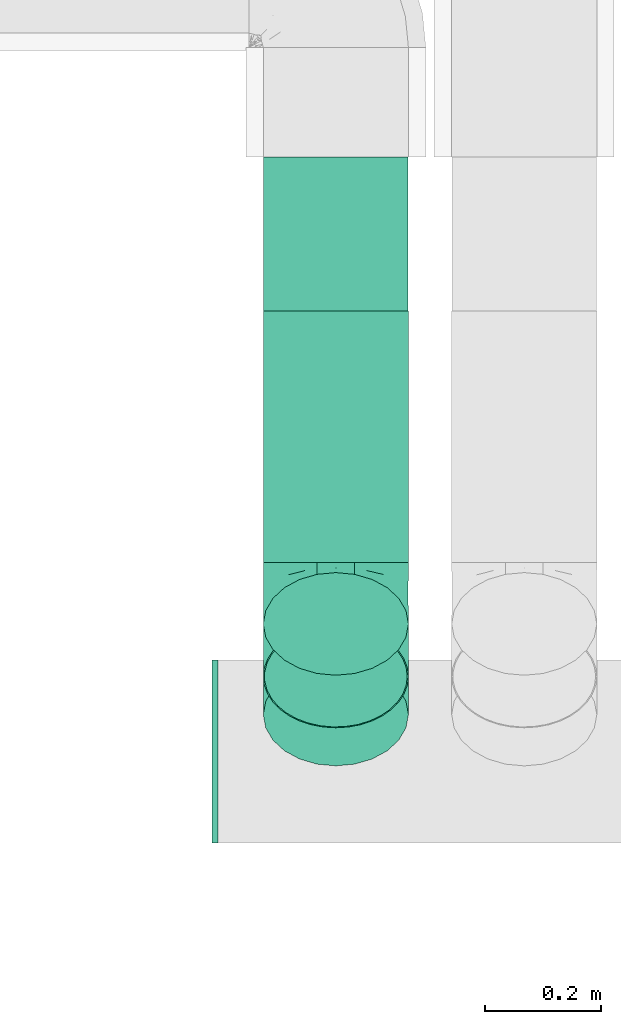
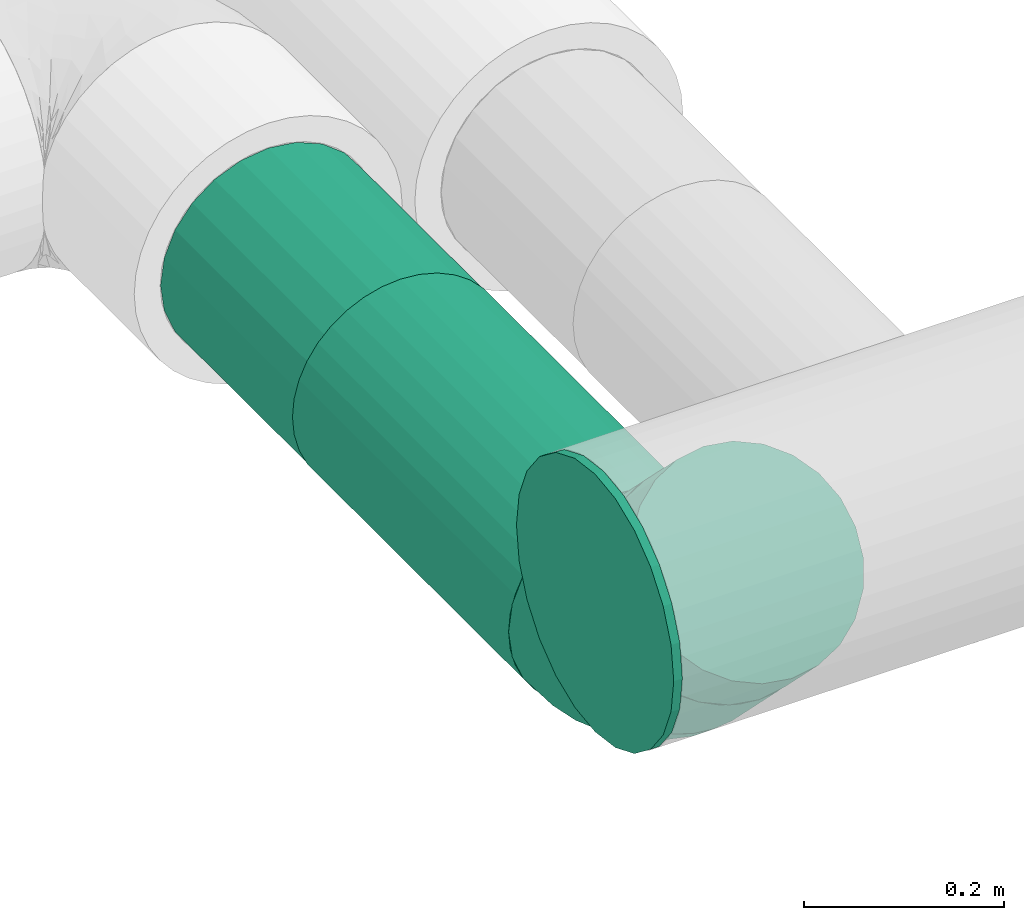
# One storey, part 10 of 36: 3 flow fittings, 2 flow segments, 1 flow controller.
"""IFC2X3 building model written with IfcOpenShell, lengths in millimetres."""

from ifc_helpers import new_model, entity, si_unit, converted_unit, derived_unit, direction, frame, origin_with_axes, origin_2d_with_axis, place, context, subcontext, project, spatial, hollow_circle, extrude, open_shell, surface_model, source, transform, mapped, type_object, element, save


model = new_model("IFC2X3")

# Units and contexts
model_context = context("Model", 3, precision=0.01, world=frame((0.0, 4.29681676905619e-09, 0.0)), true_north=direction((4.01073788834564e-13, 1.0)))
plan_context = context("Plan", 3, precision=0.01, world=frame((0.0, 4.29681676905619e-09, 0.0)), true_north=direction((4.01073788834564e-13, 1.0)))
body_context = subcontext(model_context, "Body", "Model", "MODEL_VIEW")
ifc_project = project(units=[converted_unit("PLANEANGLEUNIT", "DEGREE", entity("IfcPositiveLengthMeasure", 0.0174532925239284), si_unit("PLANEANGLEUNIT", "RADIAN"), dimensions=[0, 0, 0, 0, 0, 0, 0]), si_unit("AREAUNIT", "SQUARE_METRE"), si_unit("LENGTHUNIT", "METRE", prefix="MILLI"), si_unit("MASSUNIT", "GRAM", prefix="KILO"), si_unit("POWERUNIT", "WATT"), si_unit("PRESSUREUNIT", "PASCAL"), si_unit("FORCEUNIT", "NEWTON", prefix="KILO"), si_unit("ELECTRICCURRENTUNIT", "AMPERE"), si_unit("THERMODYNAMICTEMPERATUREUNIT", "DEGREE_CELSIUS"), si_unit("TIMEUNIT", "SECOND"), si_unit("VOLUMEUNIT", "CUBIC_METRE"), derived_unit("LINEARVELOCITYUNIT", [(si_unit("LENGTHUNIT", "METRE"), 1), (si_unit("TIMEUNIT", "SECOND"), -1)]), derived_unit("VOLUMETRICFLOWRATEUNIT", [(si_unit("VOLUMEUNIT", "CUBIC_METRE"), 1), (si_unit("TIMEUNIT", "SECOND"), -1)]), derived_unit("THERMALTRANSMITTANCEUNIT", [(si_unit("POWERUNIT", "WATT"), 1), (si_unit("THERMODYNAMICTEMPERATUREUNIT", "KELVIN"), -1), (si_unit("AREAUNIT", "SQUARE_METRE"), -1)])], contexts=[model_context, plan_context])

# Site, building, storey
site_placement = place(None, frame((0.0, -4.29681676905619e-09, 0.0), z_axis=(0.0, 0.0, 1.0), x_axis=(1.0, 0.0, 0.0)))
site = spatial("IfcSite", under=ifc_project, at=site_placement, CompositionType="ELEMENT")
building_placement = place(site_placement, frame((0.0, 4.29681676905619e-09, 0.0), z_axis=(0.0, 0.0, 1.0), x_axis=(1.0, 0.0, 0.0)))
building = spatial("IfcBuilding", under=site, at=building_placement, Name="mc-building", CompositionType="ELEMENT")
storey_placement = place(building_placement, frame((0.0, 0.0, 204000.0), z_axis=(0.0, 0.0, 1.0), x_axis=(1.0, 0.0, 0.0)))
storey = spatial("IfcBuildingStorey", under=building, at=storey_placement, Name="Nivå D", CompositionType="ELEMENT", Elevation=204000.0)

# Flow controller
damper_type = type_object("IfcDamperType", Name="IGNIS-C-EI60-250", PredefinedType="FIREDAMPER")
shared_shape_1 = source(origin_with_axes(), body_context, "Body", "SurfaceModel", [
    surface_model("IfcShellBasedSurfaceModel", [(132.5, 62.25, -107.82016), (132.5, 88.0348, -88.0348), (132.5, 62.15, -107.64695), (132.5, 32.17121, -120.06458), (132.5, 0.0, -124.3), (132.5, 32.22297, -120.25777), (132.5, 0.0, -124.5), (132.5, 87.89337, -87.89337), (132.5, 120.25777, -32.22297), (132.5, 124.3, 0.0), (132.5, 120.06458, -32.17121), (132.5, 124.5, 0.0), (132.5, 107.82016, -62.25), (132.5, 107.64695, -62.15), (132.5, -32.17121, -120.06458), (132.5, -32.22297, -120.25777), (132.5, -62.15, -107.64695), (132.5, -88.0348, -88.0348), (132.5, -62.25, -107.82016), (132.5, -87.89337, -87.89337), (132.5, -107.64695, -62.15), (132.5, -107.82016, -62.25), (132.5, -120.06458, -32.17121), (132.5, -120.25777, -32.22297), (132.5, -124.3, 0.0), (132.5, -124.5, 0.0), (132.5, 120.25777, 32.22297), (132.5, 120.06458, 32.17121), (132.5, 107.64695, 62.15), (132.5, 107.82016, 62.25), (132.5, 87.89337, 87.89337), (132.5, 88.0348, 88.0348), (132.5, 62.25, 107.82016), (132.5, 62.15, 107.64695), (132.5, 32.17121, 120.06458), (132.5, 32.22297, 120.25777), (132.5, 0.0, 124.3), (132.5, 0.0, 124.5), (132.5, -107.82016, 62.25), (132.5, -107.64695, 62.15), (132.5, -88.0348, 88.0348), (132.5, -87.89337, 87.89337), (132.5, -120.25777, 32.22297), (132.5, -120.06458, 32.17121), (132.5, -32.17121, 120.06458), (132.5, -32.22297, 120.25777), (132.5, -62.15, 107.64695), (132.5, -62.25, 107.82016), (-132.5, 62.25, 107.82016), (-132.5, 88.0348, 88.0348), (-132.5, 62.15, 107.64695), (-132.5, 32.17121, 120.06458), (-132.5, 0.0, 124.3), (-132.5, 32.22297, 120.25777), (-132.5, 0.0, 124.5), (-132.5, 87.89337, 87.89337), (-132.5, 120.25777, 32.22297), (-132.5, 124.3, 0.0), (-132.5, 120.06458, 32.17121), (-132.5, 124.5, 0.0), (-132.5, 107.82016, 62.25), (-132.5, 107.64695, 62.15), (-132.5, -32.17121, 120.06458), (-132.5, -32.22297, 120.25777), (-132.5, -62.15, 107.64695), (-132.5, -88.0348, 88.0348), (-132.5, -62.25, 107.82016), (-132.5, -87.89337, 87.89337), (-132.5, -107.64695, 62.15), (-132.5, -107.82016, 62.25), (-132.5, -120.06458, 32.17121), (-132.5, -120.25777, 32.22297), (-132.5, -124.3, 0.0), (-132.5, -124.5, 0.0), (-132.5, 120.25777, -32.22297), (-132.5, 120.06458, -32.17121), (-132.5, 107.64695, -62.15), (-132.5, 107.82016, -62.25), (-132.5, 87.89337, -87.89337), (-132.5, 88.0348, -88.0348), (-132.5, 62.25, -107.82016), (-132.5, 62.15, -107.64695), (-132.5, 32.17121, -120.06458), (-132.5, 32.22297, -120.25777), (-132.5, 0.0, -124.3), (-132.5, 0.0, -124.5), (-132.5, -107.82016, -62.25), (-132.5, -107.64695, -62.15), (-132.5, -88.0348, -88.0348), (-132.5, -87.89337, -87.89337), (-132.5, -120.25777, -32.22297), (-132.5, -120.06458, -32.17121), (-132.5, -32.17121, -120.06458), (-132.5, -32.22297, -120.25777), (-132.5, -62.15, -107.64695), (-132.5, -62.25, -107.82016)], [open_shell([[[0, 1, 2]], [[0, 2, 3]], [[4, 5, 3]], [[5, 4, 6]], [[3, 5, 0]], [[2, 1, 7]], [[8, 9, 10]], [[9, 8, 11]], [[8, 10, 12]], [[7, 12, 13]], [[12, 7, 1]], [[13, 12, 10]], [[6, 14, 15]], [[15, 14, 16]], [[17, 18, 19]], [[16, 18, 15]], [[16, 19, 18]], [[6, 4, 14]], [[20, 21, 17]], [[21, 20, 22]], [[20, 17, 19]], [[23, 22, 24]], [[22, 23, 21]], [[23, 24, 25]], [[11, 26, 27]], [[27, 26, 28]], [[28, 29, 30]], [[29, 28, 26]], [[30, 29, 31]], [[31, 32, 33]], [[33, 32, 34]], [[34, 35, 36]], [[35, 34, 32]], [[36, 35, 37]], [[33, 30, 31]], [[38, 39, 40]], [[40, 39, 41]], [[39, 38, 42]], [[25, 43, 42]], [[42, 43, 39]], [[25, 24, 43]], [[44, 37, 45]], [[44, 45, 46]], [[41, 47, 40]], [[41, 46, 47]], [[47, 46, 45]], [[36, 37, 44]], [[27, 9, 11]], [[48, 49, 50]], [[48, 50, 51]], [[52, 53, 51]], [[53, 52, 54]], [[51, 53, 48]], [[50, 49, 55]], [[56, 57, 58]], [[57, 56, 59]], [[56, 58, 60]], [[55, 60, 61]], [[60, 55, 49]], [[61, 60, 58]], [[54, 62, 63]], [[63, 62, 64]], [[65, 66, 67]], [[64, 66, 63]], [[64, 67, 66]], [[54, 52, 62]], [[68, 69, 65]], [[69, 68, 70]], [[68, 65, 67]], [[71, 70, 72]], [[70, 71, 69]], [[71, 72, 73]], [[59, 74, 75]], [[75, 74, 76]], [[76, 77, 78]], [[77, 76, 74]], [[78, 77, 79]], [[79, 80, 81]], [[81, 80, 82]], [[82, 83, 84]], [[83, 82, 80]], [[84, 83, 85]], [[81, 78, 79]], [[86, 87, 88]], [[88, 87, 89]], [[87, 86, 90]], [[73, 91, 90]], [[90, 91, 87]], [[73, 72, 91]], [[92, 85, 93]], [[92, 93, 94]], [[89, 95, 88]], [[89, 94, 95]], [[95, 94, 93]], [[84, 85, 92]], [[75, 57, 59]], [[23, 90, 86]], [[88, 21, 86]], [[18, 95, 93]], [[88, 95, 17]], [[15, 93, 85]], [[90, 25, 73]], [[90, 23, 25]], [[86, 21, 23]], [[88, 17, 21]], [[18, 17, 95]], [[93, 15, 18]], [[85, 6, 15]], [[5, 83, 80]], [[79, 0, 80]], [[12, 77, 74]], [[79, 77, 1]], [[8, 74, 59]], [[83, 5, 6]], [[80, 0, 5]], [[79, 1, 0]], [[77, 12, 1]], [[8, 12, 74]], [[59, 11, 8]], [[83, 6, 85]], [[59, 56, 26]], [[53, 32, 48]], [[48, 31, 49]], [[35, 53, 54]], [[59, 26, 11]], [[26, 56, 60]], [[26, 60, 29]], [[60, 49, 29]], [[49, 31, 29]], [[32, 31, 48]], [[53, 35, 32]], [[54, 37, 35]], [[45, 63, 66]], [[65, 47, 66]], [[38, 69, 71]], [[65, 69, 40]], [[42, 71, 73]], [[63, 45, 37]], [[66, 47, 45]], [[65, 40, 47]], [[69, 38, 40]], [[42, 38, 71]], [[73, 25, 42]], [[63, 37, 54]], [[87, 91, 22]], [[87, 20, 89]], [[92, 94, 16]], [[19, 94, 89]], [[84, 92, 14]], [[72, 24, 91]], [[24, 22, 91]], [[22, 20, 87]], [[20, 19, 89]], [[94, 19, 16]], [[16, 14, 92]], [[14, 4, 84]], [[81, 82, 3]], [[81, 2, 78]], [[75, 76, 13]], [[7, 76, 78]], [[57, 75, 10]], [[4, 3, 82]], [[3, 2, 81]], [[2, 7, 78]], [[7, 13, 76]], [[75, 13, 10]], [[10, 9, 57]], [[84, 4, 82]], [[27, 58, 57]], [[50, 33, 51]], [[55, 30, 50]], [[52, 51, 34]], [[9, 27, 57]], [[61, 58, 27]], [[28, 61, 27]], [[28, 55, 61]], [[28, 30, 55]], [[50, 30, 33]], [[33, 34, 51]], [[34, 36, 52]], [[64, 62, 44]], [[64, 46, 67]], [[70, 68, 39]], [[41, 68, 67]], [[72, 70, 43]], [[36, 44, 62]], [[44, 46, 64]], [[46, 41, 67]], [[41, 39, 68]], [[70, 39, 43]], [[43, 24, 72]], [[52, 36, 62]]])]),
])
flow_controller_placement = place(storey_placement, frame((516507.72088, 414623.75, 2614.0), z_axis=(0.0, 0.0, 1.0), x_axis=(0.0, -1.0, 0.0)))
element("IfcFlowController", 1, at=flow_controller_placement, inside=storey, type_object=damper_type, Name="IGNIS-C-EI60-250", context=body_context, shape_type="MappedRepresentation", body=[
    mapped(shared_shape_1, transform((0.0, 0.0, 0.0), scale=1.0)),
])

# Flow fittings
duct_fitting_type_1 = type_object("IfcDuctFittingType", Name="magicirc_elbow_short_001", PredefinedType="BEND")
shared_shape_2 = source(origin_with_axes(), body_context, "Body", "SurfaceModel", [
    surface_model("IfcShellBasedSurfaceModel", [(-62.13204, 0.0, -125.0), (-62.13204, -32.35238, -120.74073), (-62.13204, 32.35238, -120.74073), (-62.13204, 62.5, -108.25318), (-62.13204, 88.38835, -88.38835), (-62.13204, 108.25318, -62.5), (-62.13204, 120.74073, -32.35238), (-62.13204, -62.5, -108.25318), (-62.13204, -88.38835, -88.38835), (-62.13204, -125.0, 0.0), (-62.13204, -108.25318, -62.5), (-62.13204, -120.74073, -32.35238), (-62.13204, 125.0, 0.0), (-62.13204, -120.74073, 32.35238), (-62.13204, 120.74073, 32.35238), (-62.13204, 108.25318, 62.5), (-62.13204, 32.35238, 120.74073), (-62.13204, 62.5, 108.25318), (-62.13204, 88.38835, 88.38835), (-62.13204, -88.38835, 88.38835), (-62.13204, -108.25318, 62.5), (-62.13204, -32.35238, 120.74073), (-62.13204, 0.0, 125.0), (-62.13204, -62.5, 108.25318), (-32.61257, 120.48054, -62.5), (43.93398, 43.93398, -125.0), (21.05739, 66.81057, -120.74073), (-18.56602, 106.43398, -88.38835), (-0.26019, 88.12816, -108.25318), (132.32233, -44.45436, 0.0), (-44.45436, 132.32233, 0.0), (88.12816, -0.26019, -108.25318), (66.81057, 21.05739, -120.74073), (106.43398, -18.56602, -88.38835), (129.31057, -41.44261, -32.35238), (120.48054, -32.61257, -62.5), (-41.44261, 129.31057, -32.35238), (-41.44261, 129.31057, 32.35238), (-32.61257, 120.48054, 62.5), (-18.56602, 106.43398, 88.38835), (-0.26019, 88.12816, 108.25318), (21.05739, 66.81057, 120.74073), (43.93398, 43.93398, 125.0), (129.31057, -41.44261, 32.35238), (106.43398, -18.56602, 88.38835), (120.48054, -32.61257, 62.5), (88.12816, -0.26019, 108.25318), (66.81057, 21.05739, 120.74073), (-39.32094, -100.77129, 72.52866), (-25.3983, -115.58366, 40.92131), (-9.38975, -99.61313, 67.6303), (-31.08244, -121.94188, 0.0), (-8.4822, -119.71595, 0.0), (-40.71594, 99.20513, 81.38635), (35.22622, 7.0983, 122.8817), (11.13029, 29.36587, 124.68547), (6.93461, -16.74165, 121.22697), (-25.98216, -78.69804, 94.74513), (-17.69423, -50.99343, 111.83063), (2.27359, -83.55864, 84.32151), (-3.43912, -67.17105, 100.02812), (-29.92798, -19.88945, 122.8817), (77.07668, -63.79757, 67.63031), (37.22525, -89.79474, 60.1728), (61.92349, -89.5906, 35.66993), (-28.63512, 12.8945, 124.68547), (-43.55871, 45.16564, 117.17454), (-19.1971, 46.34588, 119.14586), (20.11216, -107.05726, 35.36285), (-42.64489, 65.81413, 107.6176), (18.18237, -43.89615, 109.72868), (-52.56495, 126.90301, 0.0), (-48.14682, 116.23669, 52.46898), (99.6893, -63.77069, 40.92131), (43.10591, -104.06687, 0.0), (48.5695, -23.5461, 111.83062), (99.06017, -43.45196, 72.52866), (74.02008, -37.27576, 94.74513), (46.20365, -49.09439, 98.73245), (108.20454, -64.24733, 0.0), (17.31186, -111.89141, 0.0), (-1.13628, 62.73759, 117.17454), (-27.44697, 77.92943, 103.54984), (29.58221, -71.41779, 87.09722), (90.64978, -78.65415, 0.0), (66.87784, -91.36051, 0.0), (19.5636, -107.13664, -35.66992), (-25.3983, -115.58366, -40.92131), (11.13029, 29.36586, -124.68547), (-28.63512, 12.89449, -124.68547), (-29.92797, -19.88945, -122.8817), (-41.3581, 98.93914, -81.38635), (-35.69649, 74.51237, -103.54983), (-19.1971, 46.34588, -119.14586), (-43.55871, 45.16564, -117.17454), (2.04406, -67.38589, -98.73245), (-9.38975, -99.61313, -67.63031), (-25.98216, -78.69804, -94.74513), (48.5695, -23.54609, -111.83063), (-48.14682, 116.23669, -52.46898), (-39.32094, -100.77129, -72.52866), (-16.38313, 76.69211, -107.6176), (-17.69423, -50.99343, -111.83063), (61.47947, -89.92235, -35.36286), (6.93461, -16.74165, -121.22697), (18.18238, -43.89615, -109.72868), (57.47721, -60.69254, -84.32152), (74.02008, -37.27576, -94.74513), (77.07668, -63.79756, -67.63031), (37.17222, -89.8167, -60.1728), (29.58221, -71.41778, -87.09723), (99.6893, -63.77069, -40.92131), (-1.13628, 62.73759, -117.17454), (35.22623, 7.0983, -122.8817), (99.06017, -43.45196, -72.52866), (49.92892, -45.06528, -100.02812)], [open_shell([[[0, 1, 2]], [[3, 2, 4]], [[1, 5, 2]], [[4, 2, 5]], [[5, 1, 6]], [[7, 8, 1]], [[9, 1, 8]], [[10, 11, 8]], [[9, 8, 11]], [[9, 6, 1]], [[9, 12, 6]], [[12, 13, 14]], [[15, 14, 16]], [[16, 17, 18]], [[15, 16, 18]], [[16, 14, 19]], [[20, 19, 13]], [[19, 14, 13]], [[21, 22, 23]], [[19, 23, 22]], [[19, 22, 16]], [[9, 13, 12]], [[24, 25, 26]], [[27, 26, 28]], [[25, 24, 29]], [[24, 26, 27]], [[30, 29, 24]], [[25, 31, 32]], [[25, 33, 31]], [[33, 34, 35]], [[34, 33, 29]], [[25, 29, 33]], [[24, 36, 30]], [[30, 37, 38]], [[30, 38, 39]], [[39, 40, 41]], [[39, 41, 30]], [[30, 41, 42]], [[43, 44, 45]], [[29, 44, 43]], [[46, 42, 47]], [[44, 29, 46]], [[42, 46, 30]], [[29, 30, 46]], [[48, 49, 50]], [[51, 52, 49]], [[53, 39, 38]], [[54, 55, 56]], [[23, 57, 58]], [[59, 60, 57]], [[49, 20, 13]], [[56, 61, 58]], [[21, 61, 22]], [[21, 23, 58]], [[62, 63, 64]], [[23, 19, 57]], [[16, 22, 65]], [[66, 65, 67]], [[50, 68, 63]], [[69, 17, 66]], [[66, 17, 16]], [[70, 56, 58]], [[61, 65, 22]], [[71, 14, 37]], [[68, 64, 63]], [[71, 12, 14]], [[14, 15, 72]], [[62, 64, 73]], [[69, 53, 18]], [[48, 19, 20]], [[68, 50, 49]], [[68, 74, 64]], [[75, 47, 54]], [[65, 55, 67]], [[76, 45, 44]], [[47, 75, 46]], [[55, 65, 56]], [[45, 76, 73]], [[45, 73, 43]], [[75, 77, 46]], [[78, 62, 77]], [[73, 79, 43]], [[68, 52, 80]], [[41, 40, 81]], [[69, 18, 17]], [[39, 53, 82]], [[63, 62, 83]], [[37, 72, 38]], [[49, 13, 51]], [[30, 71, 37]], [[64, 84, 73]], [[82, 67, 81]], [[64, 74, 85]], [[39, 82, 40]], [[42, 54, 47]], [[42, 41, 55]], [[55, 41, 81]], [[56, 70, 75]], [[48, 57, 19]], [[46, 77, 44]], [[59, 57, 50]], [[64, 85, 84]], [[78, 77, 75]], [[76, 77, 62]], [[72, 53, 38]], [[18, 53, 15]], [[58, 61, 21]], [[65, 61, 56]], [[55, 54, 42]], [[75, 54, 56]], [[13, 9, 51]], [[79, 73, 84]], [[79, 29, 43]], [[63, 83, 59]], [[14, 72, 37]], [[53, 72, 15]], [[65, 66, 16]], [[69, 67, 82]], [[67, 69, 66]], [[69, 82, 53]], [[82, 81, 40]], [[55, 81, 67]], [[49, 48, 20]], [[57, 48, 50]], [[77, 76, 44]], [[73, 76, 62]], [[60, 58, 57]], [[78, 70, 83]], [[52, 68, 49]], [[80, 74, 68]], [[63, 59, 50]], [[83, 70, 60]], [[83, 60, 59]], [[70, 58, 60]], [[70, 78, 75]], [[62, 78, 83]], [[86, 52, 87]], [[26, 25, 88]], [[0, 2, 89]], [[90, 1, 0]], [[4, 91, 92]], [[88, 89, 93]], [[94, 92, 93]], [[10, 87, 11]], [[3, 4, 92]], [[95, 96, 97]], [[32, 31, 98]], [[99, 6, 36]], [[87, 10, 100]], [[101, 27, 28]], [[87, 51, 11]], [[34, 29, 79]], [[97, 7, 102]], [[103, 84, 85]], [[1, 90, 102]], [[86, 74, 80]], [[96, 86, 87]], [[8, 100, 10]], [[7, 1, 102]], [[97, 8, 7]], [[104, 105, 102]], [[90, 89, 104]], [[6, 12, 71]], [[106, 107, 108]], [[71, 30, 36]], [[109, 96, 110]], [[111, 34, 79]], [[36, 24, 99]], [[112, 101, 28]], [[31, 33, 107]], [[2, 3, 94]], [[94, 89, 2]], [[111, 35, 34]], [[101, 91, 27]], [[4, 5, 91]], [[112, 88, 93]], [[98, 104, 113]], [[114, 33, 35]], [[107, 106, 115]], [[98, 31, 107]], [[28, 26, 112]], [[25, 32, 113]], [[108, 114, 111]], [[105, 104, 98]], [[111, 79, 84]], [[103, 86, 109]], [[89, 88, 104]], [[103, 108, 111]], [[108, 103, 109]], [[113, 88, 25]], [[86, 80, 52]], [[71, 36, 6]], [[114, 107, 33]], [[103, 74, 86]], [[95, 97, 102]], [[100, 97, 96]], [[99, 91, 5]], [[27, 91, 24]], [[89, 90, 0]], [[102, 90, 104]], [[98, 113, 32]], [[88, 113, 104]], [[51, 87, 52]], [[51, 9, 11]], [[96, 109, 86]], [[109, 110, 106]], [[91, 99, 24]], [[6, 99, 5]], [[92, 94, 3]], [[89, 94, 93]], [[88, 112, 26]], [[101, 93, 92]], [[93, 101, 112]], [[101, 92, 91]], [[111, 114, 35]], [[107, 114, 108]], [[97, 100, 8]], [[87, 100, 96]], [[115, 98, 107]], [[95, 105, 110]], [[84, 103, 111]], [[85, 74, 103]], [[109, 106, 108]], [[110, 105, 115]], [[110, 115, 106]], [[105, 98, 115]], [[105, 95, 102]], [[96, 95, 110]]])]),
])
flow_fitting_1_placement = place(storey_placement, frame((516507.72088, 413996.26875, 2614.0), z_axis=(-1.0, 0.0, 0.0), x_axis=(0.0, -1.0, 0.0)))
element("IfcFlowFitting", 2, at=flow_fitting_1_placement, inside=storey, type_object=duct_fitting_type_1, Name="magicirc_elbow_short_001", context=body_context, shape_type="MappedRepresentation", body=[
    mapped(shared_shape_2, transform((0.0, 0.0, 0.0), scale=1.0)),
])
duct_fitting_type_2 = type_object("IfcDuctFittingType", Name="magicirc_plug_001", PredefinedType="OBSTRUCTION")
shared_shape_3 = source(origin_with_axes(), body_context, "Body", "SurfaceModel", [
    surface_model("IfcShellBasedSurfaceModel", [(0.0, 40.764, -152.13332), (0.0, 0.0, -157.5), (0.0, 152.13332, -40.764), (0.0, 78.75, -136.39901), (0.0, 136.39901, -78.75), (0.0, 111.36932, -111.36932), (0.0, -157.5, 0.0), (0.0, -78.75, -136.39901), (0.0, -111.36932, -111.36932), (0.0, -40.764, -152.13332), (0.0, -152.13332, -40.764), (0.0, -136.39901, -78.75), (0.0, -111.36932, 111.36932), (0.0, 136.39901, 78.75), (0.0, 152.13332, 40.764), (0.0, 157.5, 0.0), (0.0, 40.764, 152.13332), (0.0, 78.75, 136.39901), (0.0, 111.36932, 111.36932), (0.0, 0.0, 157.5), (0.0, -152.13332, 40.764), (0.0, -136.39901, 78.75), (0.0, -78.75, 136.39901), (0.0, -40.764, 152.13332), (10.0, 152.13332, -40.764), (10.0, 0.0, -157.5), (10.0, 40.764, -152.13332), (10.0, 78.75, -136.39901), (10.0, 111.36932, -111.36932), (10.0, 136.39901, -78.75), (10.0, -40.764, -152.13332), (10.0, -111.36932, -111.36932), (10.0, -78.75, -136.39901), (10.0, -152.13332, -40.764), (10.0, -136.39901, -78.75), (10.0, -157.5, 0.0), (10.0, 136.39901, 78.75), (10.0, 157.5, 0.0), (10.0, 152.13332, 40.764), (10.0, -111.36932, 111.36932), (10.0, 78.75, 136.39901), (10.0, 40.764, 152.13332), (10.0, 111.36932, 111.36932), (10.0, 0.0, 157.5), (10.0, -136.39901, 78.75), (10.0, -152.13332, 40.764), (10.0, -40.764, 152.13332), (10.0, -78.75, 136.39901)], [open_shell([[[0, 1, 2]], [[3, 0, 2]], [[2, 4, 5]], [[3, 2, 5]], [[6, 2, 1]], [[7, 8, 9]], [[10, 9, 8]], [[11, 10, 8]], [[6, 9, 10]], [[6, 1, 9]], [[6, 12, 2]], [[13, 14, 15]], [[12, 13, 2]], [[13, 16, 17]], [[18, 13, 17]], [[16, 13, 19]], [[20, 21, 6]], [[6, 21, 12]], [[22, 23, 12]], [[23, 13, 12]], [[13, 23, 19]], [[13, 15, 2]], [[24, 25, 26]], [[24, 26, 27]], [[28, 29, 24]], [[28, 24, 27]], [[25, 24, 30]], [[30, 31, 32]], [[31, 30, 33]], [[31, 33, 34]], [[33, 30, 35]], [[30, 24, 35]], [[24, 36, 35]], [[37, 38, 36]], [[36, 39, 35]], [[40, 41, 36]], [[40, 36, 42]], [[43, 36, 41]], [[35, 44, 45]], [[39, 44, 35]], [[39, 46, 47]], [[39, 36, 46]], [[43, 46, 36]], [[36, 24, 37]], [[45, 6, 35]], [[44, 20, 45]], [[12, 39, 47]], [[44, 39, 21]], [[22, 47, 46]], [[44, 21, 20]], [[20, 6, 45]], [[23, 43, 19]], [[23, 22, 46]], [[12, 47, 22]], [[12, 21, 39]], [[43, 23, 46]], [[40, 16, 41]], [[42, 17, 40]], [[13, 36, 38]], [[42, 36, 18]], [[14, 38, 37]], [[40, 17, 16]], [[16, 19, 41]], [[14, 13, 38]], [[18, 36, 13]], [[18, 17, 42]], [[15, 14, 37]], [[41, 19, 43]], [[24, 15, 37]], [[29, 2, 24]], [[5, 28, 27]], [[29, 28, 4]], [[3, 27, 26]], [[29, 4, 2]], [[2, 15, 24]], [[0, 25, 1]], [[0, 3, 26]], [[5, 27, 3]], [[5, 4, 28]], [[25, 0, 26]], [[32, 31, 7]], [[30, 32, 9]], [[10, 34, 33]], [[34, 11, 31]], [[6, 33, 35]], [[30, 9, 1]], [[9, 32, 7]], [[8, 31, 11]], [[8, 7, 31]], [[11, 34, 10]], [[33, 6, 10]], [[30, 1, 25]]])]),
])
flow_fitting_2_placement = place(storey_placement, frame((516304.77253, 413732.76875, 2877.5), z_axis=(0.0, 0.0, 1.0), x_axis=(-1.0, 0.0, 0.0)))
element("IfcFlowFitting", 3, at=flow_fitting_2_placement, inside=storey, type_object=duct_fitting_type_2, Name="magicirc_plug_001", context=body_context, shape_type="MappedRepresentation", body=[
    mapped(shared_shape_3, transform((0.0, 0.0, 0.0), scale=1.0)),
])
duct_fitting_type_3 = type_object("IfcDuctFittingType", Name="magicirc_tapoutlet_001", PredefinedType="CONNECTOR")
shared_shape_4 = source(origin_with_axes(), body_context, "Body", "SurfaceModel", [
    surface_model("IfcShellBasedSurfaceModel", [(25.0, 62.5, -108.25318), (25.0, 125.0, 0.0), (25.0, 32.35238, -120.74073), (25.0, -88.38835, -88.38835), (25.0, 0.0, -125.0), (25.0, -120.74073, 32.35238), (25.0, -62.5, -108.25318), (25.0, -32.35238, -120.74073), (25.0, -108.25318, -62.5), (25.0, -120.74073, -32.35238), (25.0, -125.0, 0.0), (25.0, 108.25318, -62.5), (25.0, 120.74073, -32.35238), (25.0, 120.74073, 32.35238), (25.0, 108.25318, 62.5), (25.0, 88.38835, 88.38835), (25.0, 32.35238, 120.74073), (25.0, 62.5, 108.25318), (25.0, -62.5, 108.25318), (25.0, -88.38835, 88.38835), (25.0, -108.25318, 62.5), (25.0, 0.0, 125.0), (25.0, -32.35238, 120.74073), (0.0, 0.0, 125.0), (0.0, 32.35238, 120.74073), (0.0, 62.5, 108.25318), (0.0, 88.38835, 88.38835), (0.0, 108.25318, 62.5), (0.0, 120.74073, 32.35238), (0.0, 125.0, 0.0), (0.0, 120.74073, -32.35238), (0.0, 108.25318, -62.5), (25.0, 88.38835, -88.38835), (0.0, 88.38835, -88.38835), (0.0, 0.0, -125.0), (0.0, 32.35238, -120.74073), (0.0, 62.5, -108.25318), (0.0, -32.35238, -120.74073), (0.0, -62.5, -108.25318), (0.0, -88.38835, -88.38835), (0.0, -108.25318, -62.5), (0.0, -120.74073, -32.35238), (0.0, -125.0, 0.0), (0.0, -120.74073, 32.35238), (0.0, -108.25318, 62.5), (0.0, -88.38835, 88.38835), (0.0, -62.5, 108.25318), (0.0, -32.35238, 120.74073), (-67.77716, 0.0, -125.0), (-67.77716, -32.35238, -120.74073), (-67.77716, 32.35238, -120.74073), (-67.77716, 120.74073, 32.35238), (-67.77716, 62.5, -108.25318), (-67.77716, 88.38835, -88.38835), (-67.77716, 108.25318, -62.5), (-67.77716, -125.0, 0.0), (-67.77716, -120.74073, 32.35238), (-67.77716, -88.38835, -88.38835), (-67.77716, -62.5, -108.25318), (-67.77716, -120.74073, -32.35238), (-67.77716, -108.25318, -62.5), (-67.77716, 120.74073, -32.35238), (-67.77716, 108.25318, 62.5), (-67.77716, 62.5, 108.25318), (-67.77716, 32.35238, 120.74073), (-67.77716, 88.38835, 88.38835), (-67.77716, 0.0, 125.0), (-67.77716, -108.25318, 62.5), (-67.77716, -88.38835, 88.38835), (-67.77716, -32.35238, 120.74073), (-67.77716, -62.5, 108.25318), (-67.77716, 125.0, 0.0)], [open_shell([[[0, 1, 2]], [[3, 4, 5]], [[4, 3, 6]], [[6, 7, 4]], [[8, 5, 9]], [[5, 10, 9]], [[1, 11, 12]], [[13, 14, 4]], [[4, 14, 15]], [[16, 4, 17]], [[4, 15, 17]], [[18, 4, 16]], [[19, 20, 4]], [[16, 21, 22]], [[23, 21, 16]], [[24, 16, 17]], [[23, 16, 24]], [[25, 15, 26]], [[25, 24, 17]], [[15, 25, 17]], [[27, 14, 13]], [[28, 13, 1]], [[26, 14, 27]], [[28, 27, 13]], [[29, 28, 1]], [[14, 26, 15]], [[29, 1, 12]], [[30, 12, 11]], [[29, 12, 30]], [[31, 32, 33]], [[31, 30, 11]], [[32, 31, 11]], [[2, 4, 34]], [[0, 2, 35]], [[33, 0, 36]], [[34, 35, 2]], [[0, 35, 36]], [[0, 33, 32]], [[34, 4, 7]], [[37, 7, 6]], [[34, 7, 37]], [[38, 3, 39]], [[38, 37, 6]], [[3, 38, 6]], [[40, 8, 9]], [[41, 9, 10]], [[39, 8, 40]], [[41, 40, 9]], [[42, 41, 10]], [[8, 39, 3]], [[42, 10, 5]], [[43, 5, 20]], [[42, 5, 43]], [[44, 19, 45]], [[44, 43, 20]], [[19, 44, 20]], [[46, 18, 22]], [[47, 22, 21]], [[45, 18, 46]], [[47, 46, 22]], [[23, 47, 21]], [[18, 45, 19]], [[8, 3, 5]], [[10, 9, 5]], [[19, 4, 18]], [[16, 22, 18]], [[1, 13, 4]], [[48, 49, 50]], [[50, 51, 52]], [[53, 51, 54]], [[52, 51, 53]], [[50, 55, 56]], [[57, 55, 58]], [[50, 49, 58]], [[59, 55, 60]], [[57, 60, 55]], [[58, 55, 50]], [[61, 54, 51]], [[62, 51, 50]], [[63, 62, 50]], [[63, 50, 64]], [[65, 62, 63]], [[66, 64, 50]], [[56, 67, 50]], [[67, 68, 50]], [[69, 66, 70]], [[68, 70, 66]], [[50, 68, 66]], [[71, 61, 51]], [[66, 23, 24]], [[64, 24, 25]], [[66, 24, 64]], [[65, 25, 26]], [[63, 64, 25]], [[25, 65, 63]], [[51, 27, 28]], [[71, 28, 29]], [[65, 27, 62]], [[62, 27, 51]], [[28, 71, 51]], [[27, 65, 26]], [[71, 29, 30]], [[61, 30, 31]], [[71, 30, 61]], [[53, 31, 33]], [[54, 61, 31]], [[31, 53, 54]], [[50, 36, 35]], [[48, 35, 34]], [[53, 36, 52]], [[52, 36, 50]], [[35, 48, 50]], [[36, 53, 33]], [[48, 34, 37]], [[49, 37, 38]], [[48, 37, 49]], [[57, 38, 39]], [[58, 49, 38]], [[38, 57, 58]], [[59, 40, 41]], [[55, 41, 42]], [[57, 40, 60]], [[60, 40, 59]], [[41, 55, 59]], [[40, 57, 39]], [[55, 42, 43]], [[56, 43, 44]], [[55, 43, 56]], [[68, 44, 45]], [[67, 56, 44]], [[44, 68, 67]], [[69, 46, 47]], [[66, 47, 23]], [[68, 46, 70]], [[70, 46, 69]], [[47, 66, 69]], [[46, 68, 45]], [[2, 1, 4]], [[32, 11, 1]], [[32, 1, 0]], [[4, 6, 7]], [[4, 14, 17]], [[17, 14, 15]], [[4, 16, 18]], [[4, 20, 5]], [[14, 4, 13]], [[17, 16, 4]], [[4, 19, 20]], [[4, 18, 19]], [[21, 22, 16]], [[4, 1, 13]], [[50, 65, 62]], [[63, 65, 50]], [[50, 68, 70]], [[66, 50, 70]]])]),
])
flow_fitting_3_placement = place(storey_placement, frame((516507.72088, 413844.13807, 2766.13068), z_axis=(0.0, -0.707106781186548, -0.707106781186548), x_axis=(0.0, 0.707106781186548, -0.707106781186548)))
element("IfcFlowFitting", 4, at=flow_fitting_3_placement, inside=storey, type_object=duct_fitting_type_3, Name="magicirc_tapoutlet_001", context=body_context, shape_type="MappedRepresentation", body=[
    mapped(shared_shape_4, transform((0.0, 0.0, 0.0), scale=1.0)),
])

# Flow segments
duct_segment_type = type_object("IfcDuctSegmentType", Name="KK002T - Spiro kanaler, Forsinket stål, korte bend", PredefinedType="RIGIDSEGMENT")
shared_shape_5 = source(origin_with_axes(), body_context, "Body", "SweptSolid", [
    extrude(hollow_circle(Radius=125.0, WallThickness=2.0, at=origin_2d_with_axis()), frame((0.0, 0.0, 0.0), z_axis=(1.0, 0.0, 0.0), x_axis=(0.0, 1.0, 0.0)), (0.0, 0.0, 1.0), 432.8),
])
flow_segment_1_placement = place(storey_placement, frame((516507.72088, 414491.25, 2614.0), z_axis=(0.0, 0.0, 1.0), x_axis=(0.0, -1.0, 0.0)))
element("IfcFlowSegment", 5, at=flow_segment_1_placement, inside=storey, type_object=duct_segment_type, Name="KK002T - Spiro kanaler, Forsinket stål, korte bend", context=body_context, shape_type="MappedRepresentation", body=[
    mapped(shared_shape_5, transform((0.0, 0.0, 0.0), scale=1.0)),
])
shared_shape_6 = source(origin_with_axes(), body_context, "Body", "SweptSolid", [
    extrude(hollow_circle(Radius=125.0, WallThickness=2.0, at=origin_2d_with_axis()), frame((0.0, 0.0, 0.0), z_axis=(1.0, 0.0, 0.0), x_axis=(0.0, 1.0, 0.0)), (0.0, 0.0, 1.0), 128.0),
])
flow_segment_2_placement = place(storey_placement, frame((516507.72088, 413952.33477, 2657.93398), z_axis=(0.0, 0.707106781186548, 0.707106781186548), x_axis=(0.0, -0.707106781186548, 0.707106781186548)))
element("IfcFlowSegment", 6, at=flow_segment_2_placement, inside=storey, type_object=duct_segment_type, Name="KK002T - Spiro kanaler, Forsinket stål, korte bend", context=body_context, shape_type="MappedRepresentation", body=[
    mapped(shared_shape_6, transform((0.0, 0.0, 0.0), scale=1.0)),
])

save(model, "model.ifc")
